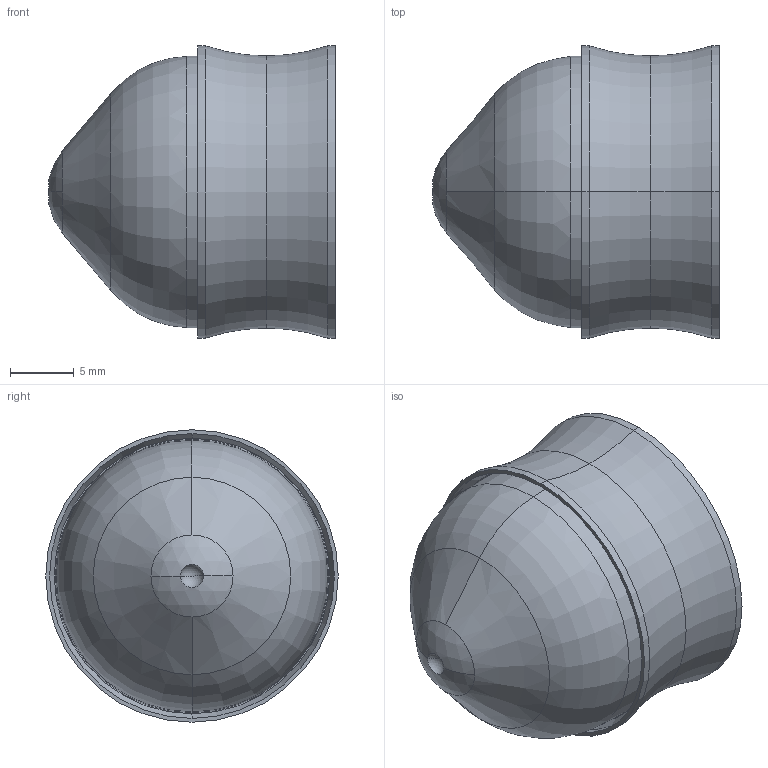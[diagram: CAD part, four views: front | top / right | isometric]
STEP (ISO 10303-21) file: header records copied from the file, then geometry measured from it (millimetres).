
FILE_DESCRIPTION (( 'STEP AP214' ), '1' );
FILE_NAME ('30_55cc wiping piston_0401-08-000009_01A_REV 2.STEP', '2022-02-11T11:12:30', ( '' ), ( '' ), 'SwSTEP 2.0', 'SolidWorks 2020', '' );
FILE_SCHEMA (( 'AUTOMOTIVE_DESIGN' ));
Length unit declared in the file: millimetre
Products named in the file (1): 30_55cc wiping piston_0401-08-000009_01A_REV 2
Bounding box: 22.47 x 22.9 x 22.9 mm (x, y, z)
Volume: 1323.6 mm3; surface area: 3524.2 mm2
Topology: 1 solids, 1 shells, 65 faces, 160 edges, 100 vertices
Faces by surface type: plane 19, torus 12, cone 12, cylinder 12, sphere 10
Entity records: 2032 total; most frequent: CARTESIAN_POINT 414, DIRECTION 364, ORIENTED_EDGE 320, EDGE_CURVE 160, AXIS2_PLACEMENT_3D 154, VERTEX_POINT 100, CIRCLE 88, EDGE_LOOP 68
